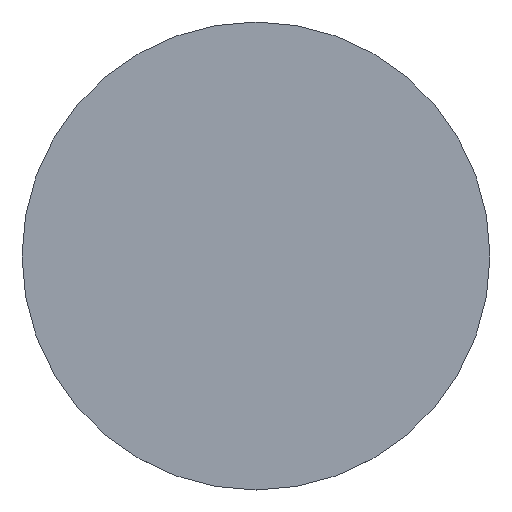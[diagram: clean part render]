
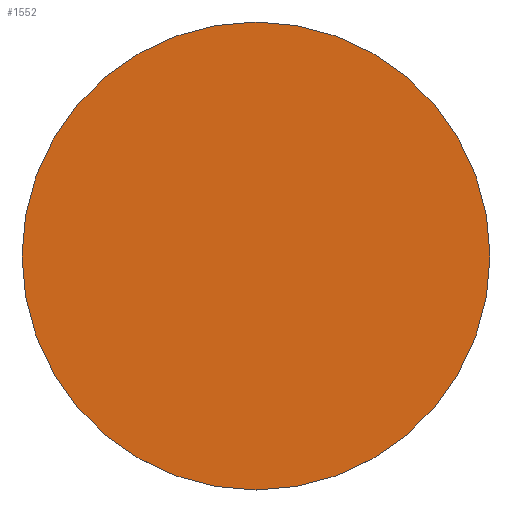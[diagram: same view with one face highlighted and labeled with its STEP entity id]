
A CAD part, top view. The second image highlights one B-rep face of the part: STEP entity #1552.
In plain terms, the highlighted planar face has unit normal (0, 0, 1).
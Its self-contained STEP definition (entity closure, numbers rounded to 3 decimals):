
#40 = DIRECTION ( 'NONE',  ( 0., 0., -1. ) ) ;
#397 = DIRECTION ( 'NONE',  ( 0., 0., 1. ) ) ;
#660 = EDGE_CURVE ( 'NONE', #2498, #2498, #2144, .T. ) ;
#826 = CARTESIAN_POINT ( 'NONE',  ( -99.827, -18.002, 218.5 ) ) ;
#922 = DIRECTION ( 'NONE',  ( -1., 0., 0. ) ) ;
#1190 = CARTESIAN_POINT ( 'NONE',  ( -209.827, -18.002, 218.5 ) ) ;
#1357 = CARTESIAN_POINT ( 'NONE',  ( -99.827, -18.002, 218.5 ) ) ;
#1418 = ORIENTED_EDGE ( 'NONE', *, *, #660, .F. ) ;
#1552 = ADVANCED_FACE ( 'NONE', ( #1923 ), #1694, .T. ) ;
#1582 = EDGE_LOOP ( 'NONE', ( #1418 ) ) ;
#1694 = PLANE ( 'NONE',  #2052 ) ;
#1923 = FACE_OUTER_BOUND ( 'NONE', #1582, .T. ) ;
#2052 = AXIS2_PLACEMENT_3D ( 'NONE', #826, #397, #2377 ) ;
#2144 = CIRCLE ( 'NONE', #2458, 110. ) ;
#2377 = DIRECTION ( 'NONE',  ( 1., 0., 0. ) ) ;
#2458 = AXIS2_PLACEMENT_3D ( 'NONE', #1357, #40, #922 ) ;
#2498 = VERTEX_POINT ( 'NONE', #1190 ) ;
